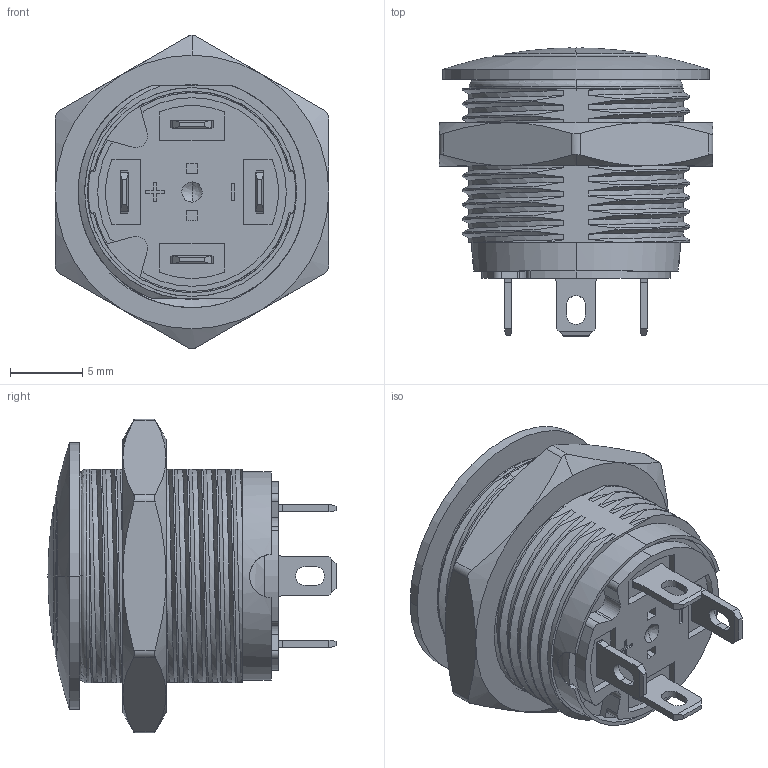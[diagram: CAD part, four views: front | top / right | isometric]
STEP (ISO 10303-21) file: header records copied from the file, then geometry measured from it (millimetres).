
FILE_DESCRIPTION (( 'STEP AP203' ), '1' );
FILE_NAME ('PMPB16-CXRE-X-JR-XV.STEP', '2020-07-02T07:57:17', ( '' ), ( '' ), 'SwSTEP 2.0', 'SolidWorks 2012', '' );
FILE_SCHEMA (( 'CONFIG_CONTROL_DESIGN' ));
Length unit declared in the file: millimetre
Products named in the file (1): PMPB16-CXRE-X-JR-XV
Bounding box: 19 x 20 x 21.75 mm (x, y, z)
Volume: 3192.3 mm3; surface area: 2541.6 mm2
Topology: 2 solids, 2 shells, 377 faces, 1101 edges, 713 vertices
Faces by surface type: plane 165, cylinder 108, bspline 86, cone 16, torus 2
Entity records: 15896 total; most frequent: CARTESIAN_POINT 6788, ORIENTED_EDGE 2178, DIRECTION 1528, EDGE_CURVE 1089, VERTEX_POINT 713, VECTOR 612, LINE 612, AXIS2_PLACEMENT_3D 458
